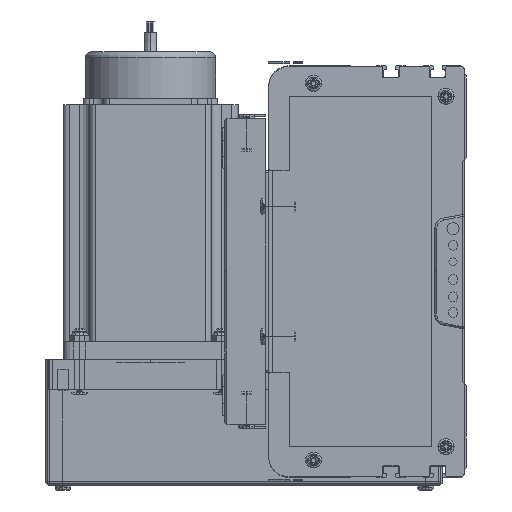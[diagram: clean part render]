
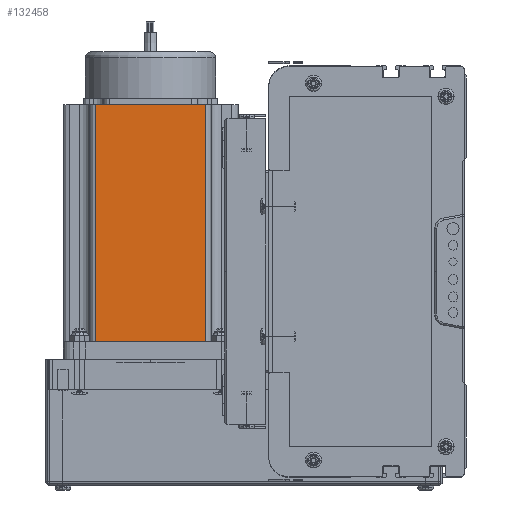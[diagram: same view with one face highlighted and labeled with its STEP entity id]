
A CAD part, left-side view. The second image highlights one B-rep face of the part: STEP entity #132458.
In plain terms, the highlighted planar face has unit normal (-1, 0, 0) as drawn and (0, -1, 0) by its records, which use the part's own axes.
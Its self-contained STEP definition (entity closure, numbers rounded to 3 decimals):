
#72961 = DIRECTION ( 'NONE',  ( 0., 0., -1. ) ) ;
#72962 = VECTOR ( 'NONE', #72961, 1000. ) ;
#72963 = CARTESIAN_POINT ( 'NONE',  ( 16.16, 0., 116.5 ) ) ;
#72966 = DIRECTION ( 'NONE',  ( 1., 0., 0. ) ) ;
#72968 = VECTOR ( 'NONE', #72966, 1000. ) ;
#72970 = CARTESIAN_POINT ( 'NONE',  ( 0., 0., 116.5 ) ) ;
#72973 = LINE ( 'NONE', #72970, #72968 ) ;
#72982 = CARTESIAN_POINT ( 'NONE',  ( 16.16, 0., 116.5 ) ) ;
#72984 = LINE ( 'NONE', #72963, #72962 ) ;
#72985 = DIRECTION ( 'NONE',  ( 0., 0., 1. ) ) ;
#72987 = VECTOR ( 'NONE', #72985, 1000. ) ;
#72988 = CARTESIAN_POINT ( 'NONE',  ( 69.74, 0., 116.5 ) ) ;
#72989 = LINE ( 'NONE', #72988, #72987 ) ;
#72995 = CARTESIAN_POINT ( 'NONE',  ( 69.74, 0., 116.5 ) ) ;
#73046 = DIRECTION ( 'NONE',  ( 1., 0., 0. ) ) ;
#73048 = VECTOR ( 'NONE', #73046, 1000. ) ;
#73049 = CARTESIAN_POINT ( 'NONE',  ( 0., 0., 0. ) ) ;
#73050 = LINE ( 'NONE', #73049, #73048 ) ;
#75432 = DIRECTION ( 'NONE',  ( 0., 1., 0. ) ) ;
#75438 = AXIS2_PLACEMENT_3D ( 'NONE', #75574, #75432, #75563 ) ;
#75462 = FACE_OUTER_BOUND ( 'NONE', #132052, .T. ) ;
#75533 = CARTESIAN_POINT ( 'NONE',  ( 69.74, 0., 0. ) ) ;
#75542 = CARTESIAN_POINT ( 'NONE',  ( 16.16, 0., 0. ) ) ;
#75563 = DIRECTION ( 'NONE',  ( 0., 0., 1. ) ) ;
#75574 = CARTESIAN_POINT ( 'NONE',  ( 0., 0., 116.5 ) ) ;
#75606 = PLANE ( 'NONE',  #75438 ) ;
#132027 = EDGE_CURVE ( 'NONE', #132468, #132034, #72989, .T. ) ;
#132034 = VERTEX_POINT ( 'NONE', #72995 ) ;
#132035 = VERTEX_POINT ( 'NONE', #72982 ) ;
#132040 = ORIENTED_EDGE ( 'NONE', *, *, #132027, .T. ) ;
#132042 = EDGE_CURVE ( 'NONE', #132035, #132034, #72973, .T. ) ;
#132050 = EDGE_CURVE ( 'NONE', #132035, #132467, #72984, .T. ) ;
#132052 = EDGE_LOOP ( 'NONE', ( #132756, #132040, #132484, #132490 ) ) ;
#132057 = EDGE_CURVE ( 'NONE', #132467, #132468, #73050, .T. ) ;
#132458 = ADVANCED_FACE ( 'NONE', ( #75462 ), #75606, .F. ) ;
#132467 = VERTEX_POINT ( 'NONE', #75542 ) ;
#132468 = VERTEX_POINT ( 'NONE', #75533 ) ;
#132484 = ORIENTED_EDGE ( 'NONE', *, *, #132042, .F. ) ;
#132490 = ORIENTED_EDGE ( 'NONE', *, *, #132050, .T. ) ;
#132756 = ORIENTED_EDGE ( 'NONE', *, *, #132057, .T. ) ;
